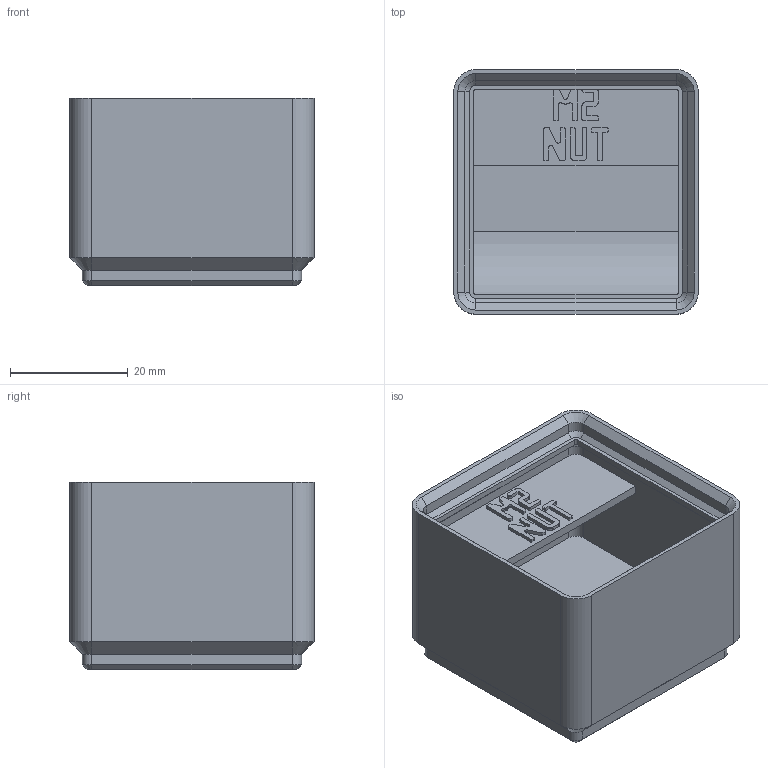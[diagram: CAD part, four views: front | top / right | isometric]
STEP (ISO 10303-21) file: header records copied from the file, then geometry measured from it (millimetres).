
FILE_DESCRIPTION(('Open CASCADE Model'),'2;1');
FILE_NAME('Open CASCADE Shape Model','2026-11-03T10:26:15',('Author'),( 'Open CASCADE'),'Open CASCADE STEP processor 8.0','build123d', 'Unknown');
FILE_SCHEMA(('AUTOMOTIVE_DESIGN { 1 0 10303 214 1 1 1 1 }'));
Length unit declared in the file: millimetre
Products named in the file (1): COMPOUND
Bounding box: 41.5 x 41.5 x 31.8 mm (x, y, z)
Volume: 24287.6 mm3; surface area: 12278 mm2
Topology: 1 solids, 1 shells, 551 faces, 1570 edges, 1028 vertices
Faces by surface type: plane 508, cylinder 23, cone 20
Entity records: 37169 total; most frequent: CARTESIAN_POINT 7783, DIRECTION 4738, LINE 3506, VECTOR 3506, ORIENTED_EDGE 3140, PCURVE 3140, DEFINITIONAL_REPRESENTATION 3140, EDGE_CURVE 1570
